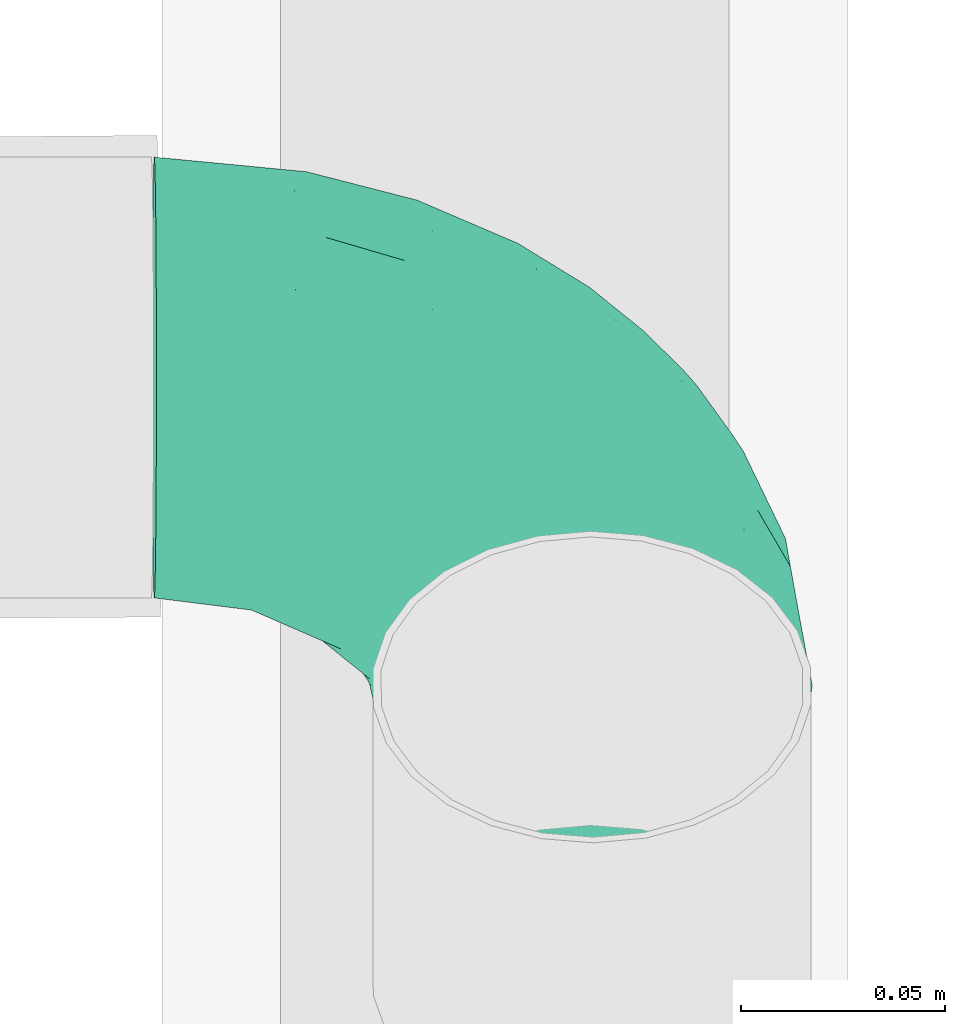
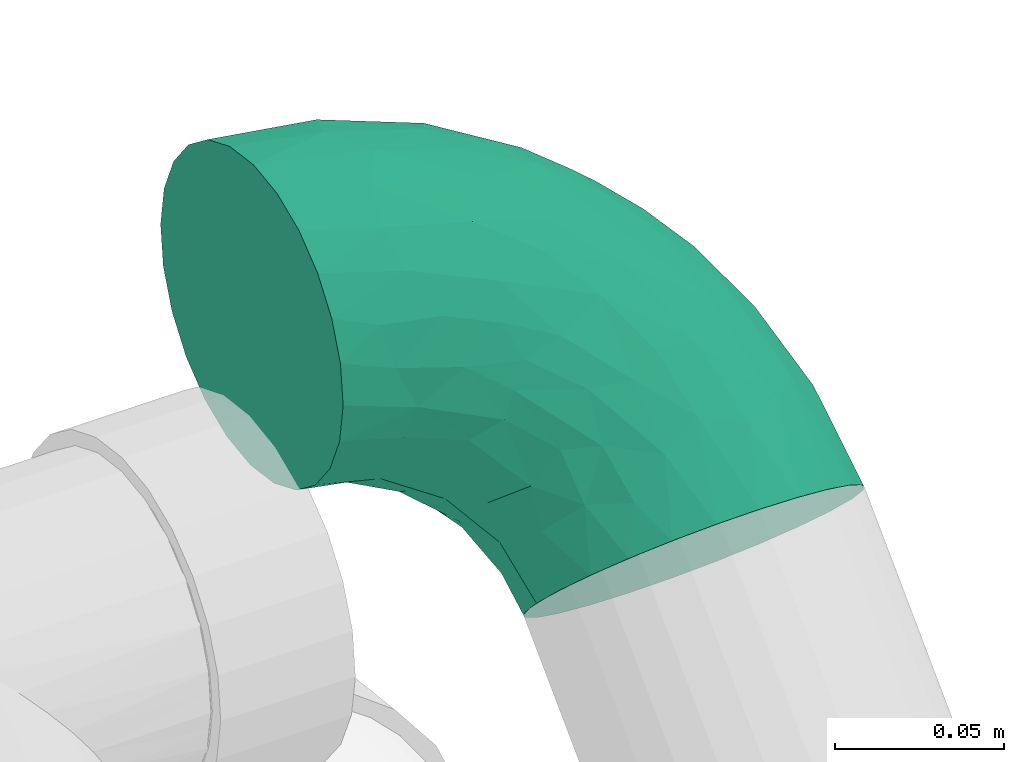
# One storey, part 67 of 78: 1 flow fitting.
"""IFC2X3 building model written with IfcOpenShell, lengths in millimetres."""

import ifcopenshell
import ifcopenshell.guid

model = None  # the IFC model being written
_history = None  # IfcOwnerHistory: only IFC2X3 demands one
_inside = {}  # id of a spatial element -> (the spatial element, [elements in it])
_under = {}  # id of a project, library or spatial element -> (it, [spatial elements below it])
_declared = {}  # id of a project -> (the project, [libraries it declares])
_typed = {}  # id of a type object -> (the type object, [elements of that type])
_made_of = {}  # id of a material, layer set ... -> (it, [elements and type objects made of it])


def new_model(schema):
    """Start an empty IFC model of exactly this schema.

    Asked for "IFC4X3", IfcOpenShell would pick the latest addendum, in which some entities
    have other attributes; the version numbers below select the first issue.
    IFC2X3 requires an IfcOwnerHistory on every rooted entity: one is made here for all.
    """
    global model, _history
    if schema == "IFC4X3":
        model = ifcopenshell.file(schema_version=(4, 3, 0, 0))
    else:
        model = ifcopenshell.file(schema=schema)
    _inside.clear()
    _under.clear()
    _declared.clear()
    _typed.clear()
    _made_of.clear()
    _history = None
    if model.schema == "IFC2X3":
        org = make("IfcOrganization", Name="unknown")
        user = make(
            "IfcPersonAndOrganization",
            ThePerson=make("IfcPerson", FamilyName="unknown"),
            TheOrganization=org,
        )
        app = make(
            "IfcApplication",
            ApplicationDeveloper=org,
            Version="unknown",
            ApplicationFullName="unknown",
            ApplicationIdentifier="unknown",
        )
        _history = make(
            "IfcOwnerHistory",
            OwningUser=user,
            OwningApplication=app,
            ChangeAction="ADDED",
            CreationDate=0,
        )
    return model


def make(cls, **values):
    """One entity of the class cls with the attributes given. An attribute that is None is left unset."""
    return model.create_entity(
        cls, **{name: value for name, value in values.items() if value is not None}
    )


def entity(cls, *values):
    """Any entity or typed value of the class cls, its attributes in the order of the schema. None: left unset."""
    e = model.create_entity(cls)
    for i, value in enumerate(values):
        if value is not None:
            e[i] = value
    return e


def rooted(cls, **values):
    """An entity with a GlobalId (a new one), such as an element, a storey or a relation."""
    return make(cls, GlobalId=ifcopenshell.guid.new(), OwnerHistory=_history, **values)


def si_unit(unit_type, name, prefix=None):
    """IfcSIUnit, for example si_unit("LENGTHUNIT", "METRE", prefix="MILLI")."""
    return make("IfcSIUnit", UnitType=unit_type, Prefix=prefix, Name=name)


def converted_unit(unit_type, name, factor, base, dimensions=None, offset=None):
    """IfcConversionBasedUnit, such as the inch: factor (a typed value) times the base unit."""
    return make(
        "IfcConversionBasedUnit"
        if offset is None
        else "IfcConversionBasedUnitWithOffset",
        ConversionOffset=offset,
        Dimensions=None
        if dimensions is None
        else entity("IfcDimensionalExponents", *dimensions),
        UnitType=unit_type,
        Name=name,
        ConversionFactor=make(
            "IfcMeasureWithUnit", ValueComponent=factor, UnitComponent=base
        ),
    )


def derived_unit(unit_type, elements):
    """IfcDerivedUnit: a product of units, each with its exponent."""
    return make(
        "IfcDerivedUnit",
        Elements=[
            make("IfcDerivedUnitElement", Unit=unit, Exponent=power)
            for unit, power in elements
        ],
        UnitType=unit_type,
    )


def assignment(units):
    """IfcUnitAssignment: the units of a project."""
    return None if units is None else make("IfcUnitAssignment", Units=units)


def point(xyz):
    """IfcCartesianPoint."""
    return None if xyz is None else make("IfcCartesianPoint", Coordinates=xyz)


def direction(xyz):
    """IfcDirection."""
    return None if xyz is None else make("IfcDirection", DirectionRatios=xyz)


def frame(location, z_axis=None, x_axis=None):
    """IfcAxis2Placement3D, a coordinate frame: its origin and axes. An axis left out is left unset."""
    return make(
        "IfcAxis2Placement3D",
        Location=point(location),
        Axis=direction(z_axis),
        RefDirection=direction(x_axis),
    )


def origin_with_axes():
    """The frame at (0, 0, 0) with the z axis (0, 0, 1) and the x axis (1, 0, 0) written out."""
    return frame((0.0, 0.0, 0.0), z_axis=(0.0, 0.0, 1.0), x_axis=(1.0, 0.0, 0.0))


def place(relative_to, where):
    """IfcLocalPlacement: puts the frame where relative to a parent placement (None: the world)."""
    return make(
        "IfcLocalPlacement", PlacementRelTo=relative_to, RelativePlacement=where
    )


def context(
    kind, dimensions, precision=None, world=None, true_north=None, identifier=None
):
    """IfcGeometricRepresentationContext, for example the 3D "Model" context."""
    return make(
        "IfcGeometricRepresentationContext",
        ContextIdentifier=identifier,
        ContextType=kind,
        CoordinateSpaceDimension=dimensions,
        Precision=precision,
        WorldCoordinateSystem=world,
        TrueNorth=true_north,
    )


def subcontext(parent, identifier, kind, view, scale=None):
    """IfcGeometricRepresentationSubContext, for example "Body" below "Model"."""
    return make(
        "IfcGeometricRepresentationSubContext",
        ContextIdentifier=identifier,
        ContextType=kind,
        ParentContext=parent,
        TargetScale=scale,
        TargetView=view,
    )


def project(units=None, contexts=None):
    """IfcProject with its units and contexts."""
    return rooted(
        "IfcProject",
        Name="project",
        RepresentationContexts=contexts,
        UnitsInContext=assignment(units),
    )


def spatial(cls, under=None, at=None, **own):
    """A site, building, storey or space (cls), placed at a placement, below another one or the project."""
    s = rooted(cls, ObjectPlacement=at, **own)
    if under is not None:
        _under.setdefault(under.id(), (under, []))[1].append(s)
    return s


def faces_of(points, faces, orient=None, outer=None):
    """IfcFace entities. A face is a list of loops; a loop is a list of indices into points, from 0.

    orient and outer hold one flag for each loop. By default every Orientation is true, the
    first loop of a face is its IfcFaceOuterBound and the others are IfcFaceBound.
    """
    made = []
    for i, loops in enumerate(faces):
        bounds = []
        for j, loop in enumerate(loops):
            is_outer = j == 0 if outer is None else outer[i][j]
            bounds.append(
                make(
                    "IfcFaceOuterBound" if is_outer else "IfcFaceBound",
                    Bound=make("IfcPolyLoop", Polygon=[points[k] for k in loop]),
                    Orientation=True if orient is None else orient[i][j],
                )
            )
        made.append(make("IfcFace", Bounds=bounds))
    return made


def open_shell(faces, orient=None, outer=None):
    """The faces of one IfcOpenShell. surface_model builds it on its shared points."""
    return ("IfcOpenShell", faces, orient, outer)


def surface_model(cls, points, shells):
    """IfcFaceBasedSurfaceModel or IfcShellBasedSurfaceModel (cls): surfaces that need not close."""
    shared = [point(p) for p in points]
    made = [make(c, CfsFaces=faces_of(shared, fs, o, b)) for c, fs, o, b in shells]
    if cls == "IfcFaceBasedSurfaceModel":
        return make(cls, FbsmFaces=made)
    return make(cls, SbsmBoundary=made)


def shape(context_of_items, identifier, shape_type, items):
    """IfcShapeRepresentation: the items that make up one representation, for example the "Body"."""
    return make(
        "IfcShapeRepresentation",
        ContextOfItems=context_of_items,
        RepresentationIdentifier=identifier,
        RepresentationType=shape_type,
        Items=items,
    )


def source(mapping_origin, context_of_items, identifier, shape_type, items):
    """IfcRepresentationMap: a shape defined once, which mapped items show again and again."""
    return make(
        "IfcRepresentationMap",
        MappingOrigin=mapping_origin,
        MappedRepresentation=shape(context_of_items, identifier, shape_type, items),
    )


def transform(
    local_origin,
    x_axis=None,
    y_axis=None,
    z_axis=None,
    scale=None,
    scale2=None,
    scale3=None,
    uniform=True,
):
    """IfcCartesianTransformationOperator3D, or its non-uniform kind. x_axis, y_axis, z_axis: its Axis1, 2, 3."""
    if uniform:
        return make(
            "IfcCartesianTransformationOperator3D",
            Axis1=direction(x_axis),
            Axis2=direction(y_axis),
            LocalOrigin=point(local_origin),
            Scale=scale,
            Axis3=direction(z_axis),
        )
    return make(
        "IfcCartesianTransformationOperator3DnonUniform",
        Axis1=direction(x_axis),
        Axis2=direction(y_axis),
        LocalOrigin=point(local_origin),
        Scale=scale,
        Axis3=direction(z_axis),
        Scale2=scale2,
        Scale3=scale3,
    )


def mapped(mapping_source, mapping_target):
    """IfcMappedItem: shows the shape of a source again, moved by a transform."""
    return make(
        "IfcMappedItem", MappingSource=mapping_source, MappingTarget=mapping_target
    )


def made_of(thing, what):
    """Note that an element or type object is made of a material, layer set ...; save() writes the relation."""
    if what is not None:
        _made_of.setdefault(what.id(), (what, []))[1].append(thing)
    return thing


def type_object(cls, material=None, **own):
    """A type object (cls), such as IfcWallType, which elements share."""
    return made_of(rooted(cls, **own), material)


def element(
    cls,
    number,
    at=None,
    inside=None,
    cuts=None,
    type_object=None,
    material=None,
    context=None,
    identifier="Body",
    shape_type=None,
    held_by="IfcProductDefinitionShape",
    body=None,
    shapes=None,
    **own,
):
    """One element of the class cls, such as IfcWall. Its Tag is "e" and its number.

    at: its placement. inside: the storey or other place that contains it. cuts: it is an
    opening in that element (IfcRelVoidsElement). A single representation is given by context,
    identifier, shape_type and body (its items); several are given by shapes. held_by: the class
    of the entity that holds the representations. save() writes the other relations.
    """
    e = rooted(cls, Tag="e%d" % number, ObjectPlacement=at, **own)
    if body is not None:
        shapes = [shape(context, identifier, shape_type, body)]
    if shapes is not None:
        e.Representation = make(held_by, Representations=shapes)
    if inside is not None:
        _inside.setdefault(inside.id(), (inside, []))[1].append(e)
    if cuts is not None:
        rooted(
            "IfcRelVoidsElement", RelatingBuildingElement=cuts, RelatedOpeningElement=e
        )
    if type_object is not None:
        _typed.setdefault(type_object.id(), (type_object, []))[1].append(e)
    return made_of(e, material)


def aggregate(whole, parts):
    """IfcRelAggregates: a whole, such as a stair, and the parts it consists of."""
    return rooted("IfcRelAggregates", RelatingObject=whole, RelatedObjects=parts)


def save(model, path):
    """Write the relations noted so far, then the file.

    IfcRelAggregates (storeys below a building ...), IfcRelContainedInSpatialStructure (elements
    in a storey), IfcRelDefinesByType, IfcRelAssociatesMaterial and IfcRelDeclares: one each for
    every whole, place, type object, material and project.
    """
    for whole, parts in _under.values():
        aggregate(whole, parts)
    for where, things in _inside.values():
        rooted(
            "IfcRelContainedInSpatialStructure",
            RelatedElements=things,
            RelatingStructure=where,
        )
    for kind, things in _typed.values():
        rooted("IfcRelDefinesByType", RelatedObjects=things, RelatingType=kind)
    for what, things in _made_of.values():
        rooted("IfcRelAssociatesMaterial", RelatedObjects=things, RelatingMaterial=what)
    for by, libraries in _declared.values():
        rooted("IfcRelDeclares", RelatingContext=by, RelatedDefinitions=libraries)
    model.write(path)


model = new_model("IFC2X3")

# Units and contexts
model_context = context("Model", 3, precision=0.01, world=frame((0.0, 4.29681676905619e-09, 0.0)), true_north=direction((4.01073788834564e-13, 1.0)))
plan_context = context("Plan", 3, precision=0.01, world=frame((0.0, 4.29681676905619e-09, 0.0)), true_north=direction((4.01073788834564e-13, 1.0)))
body_context = subcontext(model_context, "Body", "Model", "MODEL_VIEW")
ifc_project = project(units=[converted_unit("PLANEANGLEUNIT", "DEGREE", entity("IfcPositiveLengthMeasure", 0.0174532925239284), si_unit("PLANEANGLEUNIT", "RADIAN"), dimensions=[0, 0, 0, 0, 0, 0, 0]), si_unit("AREAUNIT", "SQUARE_METRE"), si_unit("LENGTHUNIT", "METRE", prefix="MILLI"), si_unit("MASSUNIT", "GRAM", prefix="KILO"), si_unit("POWERUNIT", "WATT"), si_unit("PRESSUREUNIT", "PASCAL"), si_unit("FORCEUNIT", "NEWTON", prefix="KILO"), si_unit("ELECTRICVOLTAGEUNIT", "VOLT"), si_unit("ELECTRICCURRENTUNIT", "AMPERE"), si_unit("THERMODYNAMICTEMPERATUREUNIT", "DEGREE_CELSIUS"), si_unit("TIMEUNIT", "SECOND"), si_unit("VOLUMEUNIT", "CUBIC_METRE"), derived_unit("LINEARVELOCITYUNIT", [(si_unit("LENGTHUNIT", "METRE"), 1), (si_unit("TIMEUNIT", "SECOND"), -1)]), derived_unit("VOLUMETRICFLOWRATEUNIT", [(si_unit("VOLUMEUNIT", "CUBIC_METRE"), 1), (si_unit("TIMEUNIT", "SECOND"), -1)]), derived_unit("THERMALTRANSMITTANCEUNIT", [(si_unit("POWERUNIT", "WATT"), 1), (si_unit("THERMODYNAMICTEMPERATUREUNIT", "KELVIN"), -1), (si_unit("AREAUNIT", "SQUARE_METRE"), -1)]), derived_unit("SOUNDPRESSUREUNIT", [(si_unit("PRESSUREUNIT", "PASCAL"), 1)])], contexts=[model_context, plan_context])

# Site, building, storey
site_placement = place(None, frame((0.0, -4.29681676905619e-09, 0.0), z_axis=(0.0, 0.0, 1.0), x_axis=(1.0, 0.0, 0.0)))
site = spatial("IfcSite", under=ifc_project, at=site_placement, Name="ENGM", CompositionType="ELEMENT")
building_placement = place(site_placement, frame((0.0, 4.29681676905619e-09, 0.0), z_axis=(0.0, 0.0, 1.0), x_axis=(1.0, 0.0, 0.0)))
building = spatial("IfcBuilding", under=site, at=building_placement, Name="TH", CompositionType="ELEMENT")
storey_placement = place(building_placement, frame((0.0, 0.0, 205200.0), z_axis=(0.0, 0.0, 1.0), x_axis=(1.0, 0.0, 0.0)))
storey = spatial("IfcBuildingStorey", under=building, at=storey_placement, Name="Nivå D + 1,2 m", CompositionType="ELEMENT", Elevation=205200.0)

# Flow fitting
pipe_fitting_type = type_object("IfcPipeFittingType", Name="magi_pipe_fe_elbow_short_001", PredefinedType="BEND")
shared_shape = source(origin_with_axes(), body_context, "Body", "SurfaceModel", [
    surface_model("IfcShellBasedSurfaceModel", [(-107.23904, 0.0, -54.0), (-107.23904, -13.97623, -52.15999), (-107.23904, 13.97623, -52.15999), (-107.23904, 27.0, -46.76537), (-107.23904, 52.15999, -13.97623), (-107.23904, 46.76537, -27.0), (-107.23904, 38.18377, -38.18377), (-107.23904, -54.0, 0.0), (-107.23904, -27.0, -46.76537), (-107.23904, -38.18377, -38.18377), (-107.23904, -46.76537, -27.0), (-107.23904, -52.15999, -13.97623), (-107.23904, 38.18377, 38.18377), (-107.23904, 46.76537, 27.0), (-107.23904, 52.15999, 13.97623), (-107.23904, 13.97623, 52.15999), (-107.23904, 27.0, 46.76537), (-107.23904, -46.76537, 27.0), (-107.23904, -38.18377, 38.18377), (-107.23904, -27.0, 46.76537), (-107.23904, -52.15999, 13.97623), (-107.23904, -13.97623, 52.15999), (-107.23904, 0.0, 54.0), (-107.23904, 54.0, 0.0), (0.75826, 107.23636, -54.0), (-13.21762, 107.33518, -52.15999), (-26.24107, 107.42727, -46.76537), (14.73414, 107.13754, -52.15999), (-37.42456, 107.50635, -38.18377), (-46.00594, 107.56703, -27.0), (-51.40043, 107.60517, -13.97623), (47.52246, 106.9057, 27.0), (27.75758, 107.04546, -46.76537), (54.7569, 106.85454, 0.0), (38.94107, 106.96637, -38.18377), (52.91695, 106.86755, -13.97623), (47.52246, 106.9057, -27.0), (-51.40043, 107.60517, 13.97623), (-46.00594, 107.56703, 27.0), (-26.24107, 107.42727, 46.76537), (-37.42456, 107.50635, 38.18377), (-13.21762, 107.33518, 52.15999), (27.75758, 107.04546, 46.76537), (38.94107, 106.96637, 38.18377), (52.91695, 106.86755, 13.97623), (0.75826, 107.23636, 54.0), (14.73414, 107.13754, 52.15999), (-53.24039, 107.61819, 0.0), (-78.6384, -41.96746, 30.34072), (-73.15341, -47.53275, 17.09113), (-65.49479, -48.52929, 0.0), (-80.54366, -50.50149, 0.0), (25.9342, 22.89136, 20.28252), (22.70909, 26.76632, 29.46994), (12.93908, 8.19955, 24.31831), (24.77849, 43.21885, 37.29199), (13.41268, 41.09875, 44.92743), (10.92881, 19.36668, 36.5893), (-78.56694, -20.40302, 48.5868), (-41.19256, -13.12174, 44.92743), (-53.23451, -0.54298, 52.35283), (31.59093, 69.68378, 40.23091), (-69.90541, -31.09742, 40.23091), (-39.3551, -37.16166, 13.63498), (-46.03236, -40.50796, 0.0), (-26.56994, -32.48664, 0.0), (-54.50272, 93.13746, 9.20678), (-62.15611, 75.9926, 11.7311), (-50.17172, 93.46155, 22.45484), (-92.79555, 32.69733, 43.98596), (-83.72004, 45.00672, 35.42133), (-73.75014, 61.35469, 18.91747), (-65.31493, 63.63845, 26.65567), (-18.38458, 52.75871, 53.89453), (-39.53574, 39.81628, 52.66959), (-31.80249, 23.42008, 53.73598), (-81.86452, -7.15559, 53.08137), (-19.50467, 92.63233, 50.57331), (-6.83881, 80.12821, 53.86593), (-74.95327, 8.27466, 53.90637), (-77.8418, 53.67179, 27.90971), (-89.7398, 53.27544, 19.00359), (-4.89004, -9.48396, 25.09748), (-0.35056, 1.62624, 32.92708), (-18.07164, -12.99144, 33.56791), (-93.23363, 55.06951, 8.98094), (-76.10384, 62.97841, 8.90237), (-24.94092, -23.82994, 25.85225), (-42.82504, -24.50435, 37.00046), (-69.19051, 69.68148, 0.0), (-86.66236, 58.07405, 0.0), (-82.50902, 21.18617, 51.00546), (-13.70378, 35.66019, 53.01923), (-26.31308, 9.8717, 50.47387), (-5.00211, 28.86137, 49.62694), (-9.29509, 9.36104, 44.21119), (40.83243, 45.74479, 0.0), (37.439, 39.09136, 13.63498), (32.67369, 26.33957, 0.0), (42.52244, 78.33969, 30.34072), (34.48701, 46.13632, 27.21678), (48.04881, 72.81549, 17.09113), (-13.60472, -20.97062, 16.62754), (-46.37902, -34.15993, 27.21678), (7.73425, 81.81188, 53.08137), (-56.95205, 36.46457, 49.93363), (-58.75932, 23.04127, 53.03129), (-52.49589, 13.19849, 53.97993), (51.06973, 80.18457, 0.0), (-43.63639, 68.77049, 42.53192), (-43.73266, 86.67397, 35.13264), (-56.46565, 60.02495, 38.22122), (-22.80774, 72.75691, 51.41473), (-57.45984, 87.07082, 0.0), (-33.53655, 83.16686, 44.74783), (-40.25872, 58.11651, 48.12978), (20.95803, 78.42071, 48.5868), (48.99117, 65.15002, 0.0), (-57.08598, 48.30881, 44.87574), (-73.81765, 36.59917, 45.44715), (-30.93264, 55.75556, 51.721), (0.91937, 53.22934, 52.35283), (5.96129, -4.94536, 14.88051), (-9.83169, -19.7211, 0.0), (6.90656, -6.95556, 0.0), (22.23035, 12.64112, 11.33528), (-55.07523, 76.32938, 26.63421), (19.79013, 9.692, 0.0), (-89.82835, 32.99313, -44.21612), (-42.84515, -24.58109, -36.93633), (-41.19256, -13.12175, -44.92743), (-18.07164, -12.99144, -33.56791), (-80.07785, 7.40521, -53.86593), (20.95803, 78.42071, -48.5868), (13.41268, 41.09875, -44.92743), (0.91937, 53.22934, -52.35283), (-92.4921, 20.15916, -50.57331), (-62.15611, 75.9926, -11.7311), (-89.18346, 55.16015, -13.97447), (-54.50272, 93.13746, -9.20678), (-76.10384, 62.97841, -8.90237), (-46.37902, -34.15993, -27.21678), (-24.94093, -23.82994, -25.85225), (-51.67521, 42.9508, -49.11192), (-55.4024, 30.77436, -51.8777), (-69.10419, 39.13217, -45.37354), (-69.90541, -31.09742, -40.23091), (-52.6274, 18.75716, -53.89453), (-39.53574, 39.81628, -52.6696), (-23.19463, 31.96729, -53.73598), (-83.35808, 45.10612, -35.46102), (-73.15341, -47.53275, -17.09113), (-43.43451, 87.98798, -34.98947), (-52.52019, 89.81825, -19.54306), (42.52244, 78.33969, -30.34072), (34.48701, 46.13632, -27.21678), (31.59093, 69.68378, -40.23091), (-78.63839, -41.96746, -30.34072), (48.04881, 72.81549, -17.09113), (-78.56694, -20.40302, -48.5868), (-36.06097, 57.20845, -49.93363), (-56.34906, 49.96471, -44.34613), (-36.07631, 74.07458, -45.44716), (-39.3551, -37.16166, -13.63498), (12.93908, 8.19955, -24.3183), (10.92881, 19.36668, -36.58929), (22.70909, 26.76632, -29.46994), (-81.86452, -7.15559, -53.08137), (-86.66918, 51.28403, -25.37044), (-68.83448, 58.41676, -29.41837), (-73.75014, 61.35469, -18.91747), (-20.60225, 82.65676, -51.00546), (-7.74448, 75.0099, -53.90637), (25.93419, 22.89136, -20.28252), (-54.22549, 76.90648, -27.38544), (-32.04038, 93.02443, -43.98597), (7.73425, 81.81188, -53.08137), (-46.65606, 70.64496, -39.49461), (-35.5624, 13.95558, -53.01923), (-9.6854, 26.38222, -50.47387), (-28.82528, 5.20605, -49.62694), (37.43901, 39.09136, -13.63498), (22.23035, 12.64113, -11.33528), (5.96129, -4.94536, -14.88051), (-72.59383, 23.32161, -51.41473), (-22.62523, 58.92077, -53.03129), (-12.82697, 52.58789, -53.97993), (-59.62419, 56.88866, -38.22123), (-53.23451, -0.54298, -52.35283), (-9.29509, 9.36104, -44.21119), (24.77849, 43.21885, -37.29199), (-13.60472, -20.97062, -16.62754), (-4.89004, -9.48397, -25.09748), (-0.35055, 1.62624, -32.92707)], [open_shell([[[0, 1, 2]], [[2, 1, 3]], [[4, 5, 6]], [[6, 3, 7]], [[6, 7, 4]], [[8, 9, 1]], [[9, 3, 1]], [[10, 11, 9]], [[7, 9, 11]], [[9, 7, 3]], [[7, 12, 4]], [[4, 13, 14]], [[4, 12, 13]], [[15, 16, 12]], [[12, 7, 15]], [[17, 15, 7]], [[18, 19, 17]], [[17, 7, 20]], [[19, 21, 17]], [[21, 15, 17]], [[15, 21, 22]], [[23, 4, 14]], [[24, 25, 26]], [[27, 24, 26]], [[28, 29, 30]], [[28, 30, 26]], [[31, 27, 26]], [[32, 33, 34]], [[31, 33, 32]], [[34, 35, 36]], [[35, 34, 33]], [[31, 32, 27]], [[31, 26, 30]], [[30, 37, 38]], [[31, 30, 38]], [[38, 39, 31]], [[39, 38, 40]], [[39, 41, 42]], [[31, 42, 43]], [[44, 33, 31]], [[42, 45, 46]], [[42, 31, 39]], [[45, 42, 41]], [[30, 47, 37]], [[48, 17, 49]], [[50, 49, 51]], [[52, 53, 54]], [[49, 17, 20]], [[20, 51, 49]], [[55, 56, 57]], [[18, 17, 48]], [[58, 59, 60]], [[61, 43, 42]], [[62, 19, 18]], [[62, 58, 19]], [[63, 64, 65]], [[66, 67, 68]], [[12, 69, 70]], [[67, 71, 72]], [[13, 12, 70]], [[73, 74, 75]], [[16, 69, 12]], [[21, 76, 22]], [[41, 77, 78]], [[22, 79, 15]], [[80, 81, 13]], [[82, 83, 84]], [[23, 14, 85]], [[71, 86, 85]], [[87, 84, 88]], [[89, 90, 86]], [[91, 15, 79]], [[15, 91, 16]], [[92, 93, 94]], [[95, 59, 84]], [[71, 85, 81]], [[96, 97, 98]], [[31, 43, 99]], [[100, 101, 99]], [[102, 87, 63]], [[48, 103, 62]], [[46, 45, 104]], [[105, 91, 106]], [[101, 44, 31]], [[37, 68, 38]], [[99, 101, 31]], [[106, 107, 75]], [[101, 108, 44]], [[49, 50, 64]], [[109, 110, 111]], [[112, 73, 78]], [[86, 67, 89]], [[22, 76, 79]], [[113, 66, 47]], [[39, 40, 114]], [[89, 67, 113]], [[80, 72, 71]], [[114, 112, 77]], [[115, 112, 114]], [[38, 68, 110]], [[116, 42, 46]], [[19, 58, 21]], [[61, 116, 56]], [[39, 77, 41]], [[45, 41, 78]], [[59, 62, 88]], [[66, 113, 67]], [[61, 42, 116]], [[101, 96, 117]], [[109, 118, 115]], [[118, 70, 119]], [[81, 80, 71]], [[110, 40, 38]], [[112, 115, 120]], [[112, 120, 73]], [[104, 78, 121]], [[59, 58, 62]], [[76, 58, 60]], [[59, 88, 84]], [[59, 95, 93]], [[104, 116, 46]], [[121, 94, 56]], [[121, 56, 116]], [[56, 95, 57]], [[106, 91, 79]], [[69, 91, 119]], [[103, 48, 49]], [[62, 18, 48]], [[43, 61, 99]], [[100, 99, 61]], [[122, 123, 124]], [[87, 82, 84]], [[102, 63, 65]], [[98, 97, 125]], [[122, 124, 125]], [[56, 55, 61]], [[85, 86, 90]], [[67, 86, 71]], [[23, 85, 90]], [[85, 14, 81]], [[14, 13, 81]], [[80, 13, 70]], [[70, 111, 80]], [[72, 111, 126]], [[114, 109, 115]], [[105, 118, 119]], [[106, 75, 74]], [[121, 78, 73]], [[93, 75, 60]], [[73, 75, 92]], [[78, 104, 45]], [[116, 104, 121]], [[58, 76, 21]], [[79, 76, 60]], [[111, 110, 126]], [[114, 40, 110]], [[106, 79, 107]], [[105, 106, 74]], [[115, 105, 74]], [[91, 105, 119]], [[115, 118, 105]], [[70, 118, 111]], [[79, 60, 107]], [[60, 75, 107]], [[111, 72, 80]], [[67, 72, 126]], [[83, 95, 84]], [[53, 57, 54]], [[53, 55, 57]], [[100, 61, 55]], [[59, 93, 60]], [[94, 93, 95]], [[56, 94, 95]], [[92, 94, 121]], [[73, 92, 121]], [[93, 92, 75]], [[68, 67, 126]], [[47, 66, 37]], [[20, 7, 51]], [[108, 101, 117]], [[108, 33, 44]], [[64, 63, 49]], [[49, 63, 103]], [[97, 101, 100]], [[101, 97, 96]], [[100, 53, 52]], [[122, 125, 54]], [[125, 124, 127]], [[82, 122, 54]], [[102, 123, 122]], [[91, 69, 16]], [[70, 69, 119]], [[114, 77, 39]], [[78, 77, 112]], [[66, 68, 37]], [[110, 68, 126]], [[62, 103, 88]], [[87, 88, 103]], [[63, 87, 103]], [[82, 87, 102]], [[122, 82, 102]], [[83, 54, 57]], [[54, 83, 82]], [[95, 83, 57]], [[102, 65, 123]], [[115, 74, 120]], [[73, 120, 74]], [[110, 109, 114]], [[118, 109, 111]], [[54, 125, 52]], [[55, 53, 100]], [[125, 97, 52]], [[100, 52, 97]], [[127, 98, 125]], [[3, 6, 128]], [[129, 130, 131]], [[0, 2, 132]], [[133, 134, 135]], [[2, 3, 136]], [[89, 113, 137]], [[90, 138, 23]], [[113, 139, 137]], [[140, 138, 90]], [[141, 129, 142]], [[143, 144, 145]], [[146, 129, 141]], [[147, 148, 149]], [[5, 150, 6]], [[10, 151, 11]], [[29, 152, 153]], [[151, 51, 11]], [[154, 155, 156]], [[151, 10, 157]], [[158, 117, 96]], [[146, 8, 159]], [[160, 161, 162]], [[150, 145, 128]], [[35, 33, 108]], [[64, 163, 65]], [[164, 165, 166]], [[167, 1, 0]], [[141, 151, 157]], [[146, 159, 130]], [[150, 168, 169]], [[89, 140, 90]], [[151, 64, 50]], [[170, 140, 137]], [[171, 25, 172]], [[30, 139, 47]], [[164, 166, 173]], [[159, 8, 1]], [[170, 137, 174]], [[26, 175, 28]], [[154, 36, 158]], [[26, 25, 171]], [[24, 176, 172]], [[146, 9, 8]], [[177, 174, 152]], [[152, 174, 153]], [[24, 27, 176]], [[34, 156, 32]], [[2, 136, 132]], [[178, 179, 180]], [[96, 98, 181]], [[182, 183, 164]], [[133, 32, 156]], [[158, 36, 35]], [[184, 147, 132]], [[158, 108, 117]], [[185, 186, 149]], [[29, 28, 152]], [[108, 158, 35]], [[32, 133, 27]], [[36, 154, 34]], [[24, 172, 25]], [[138, 168, 4]], [[160, 171, 185]], [[187, 169, 174]], [[10, 9, 157]], [[137, 139, 153]], [[168, 138, 170]], [[145, 150, 187]], [[184, 144, 147]], [[167, 132, 188]], [[167, 159, 1]], [[188, 180, 130]], [[188, 130, 159]], [[130, 189, 131]], [[134, 133, 156]], [[176, 133, 135]], [[134, 190, 165]], [[134, 189, 179]], [[185, 171, 172]], [[175, 171, 162]], [[9, 146, 157]], [[141, 157, 146]], [[155, 154, 158]], [[156, 34, 154]], [[189, 134, 165]], [[183, 123, 191]], [[191, 142, 192]], [[163, 191, 65]], [[193, 189, 165]], [[181, 98, 182]], [[160, 143, 161]], [[184, 136, 128]], [[137, 140, 89]], [[138, 140, 170]], [[169, 168, 170]], [[138, 4, 23]], [[150, 5, 168]], [[4, 168, 5]], [[185, 149, 148]], [[188, 132, 147]], [[179, 149, 135]], [[147, 149, 178]], [[132, 167, 0]], [[159, 167, 188]], [[133, 176, 27]], [[172, 176, 135]], [[174, 169, 170]], [[150, 169, 187]], [[175, 152, 28]], [[177, 152, 162]], [[185, 172, 186]], [[160, 185, 148]], [[143, 160, 148]], [[171, 160, 162]], [[144, 143, 148]], [[161, 143, 145]], [[172, 135, 186]], [[135, 149, 186]], [[147, 144, 148]], [[145, 144, 184]], [[134, 156, 190]], [[164, 192, 193]], [[156, 155, 190]], [[166, 190, 155]], [[150, 128, 6]], [[184, 128, 145]], [[134, 179, 135]], [[180, 179, 189]], [[130, 180, 189]], [[178, 180, 188]], [[147, 178, 188]], [[179, 178, 149]], [[145, 187, 161]], [[161, 187, 177]], [[47, 139, 113]], [[153, 139, 30]], [[29, 153, 30]], [[137, 153, 174]], [[51, 151, 50]], [[51, 7, 11]], [[163, 151, 141]], [[151, 163, 64]], [[163, 141, 142]], [[173, 182, 164]], [[96, 181, 158]], [[158, 181, 155]], [[182, 98, 127]], [[161, 177, 162]], [[124, 183, 182]], [[192, 183, 191]], [[171, 175, 26]], [[152, 175, 162]], [[128, 136, 3]], [[132, 136, 184]], [[130, 129, 146]], [[142, 129, 131]], [[192, 142, 131]], [[163, 142, 191]], [[193, 192, 131]], [[183, 192, 164]], [[189, 193, 131]], [[164, 193, 165]], [[123, 183, 124]], [[123, 65, 191]], [[174, 177, 187]], [[190, 166, 165]], [[173, 155, 181]], [[155, 173, 166]], [[181, 182, 173]], [[124, 182, 127]]])]),
])
flow_fitting_placement = place(storey_placement, frame((903924.24198, 479930.41316, 4534.08806000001), z_axis=(-0.00707100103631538, 0.707089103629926, -0.707089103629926), x_axis=(0.999950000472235, -1.72211576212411e-07, -0.00999982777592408)))
element("IfcFlowFitting", 1, at=flow_fitting_placement, inside=storey, type_object=pipe_fitting_type, Name="magi_pipe_fe_elbow_short_001", context=body_context, shape_type="MappedRepresentation", body=[
    mapped(shared_shape, transform((0.0, 0.0, 0.0), scale=1.0)),
])

save(model, "model.ifc")
